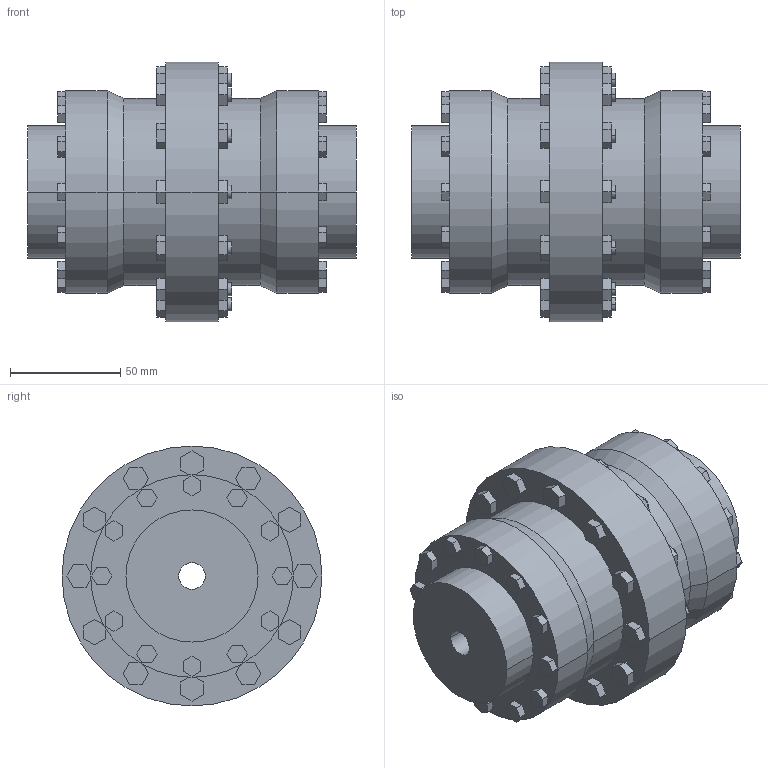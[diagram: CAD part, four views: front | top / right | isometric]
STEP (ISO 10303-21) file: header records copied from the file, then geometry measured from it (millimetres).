
FILE_DESCRIPTION((''),'2;1');
FILE_NAME('A19708400-0_ASM','2019-05-23T',('AB_Roschiwal'),('RENK AG'),'PRO/ENGINEER BY PARAMETRIC TECHNOLOGY CORPORATION, 2015440','PRO/ENGINEER BY PARAMETRIC TECHNOLOGY CORPORATION, 2015440','');
FILE_SCHEMA(('CONFIG_CONTROL_DESIGN'));
Length unit declared in the file: millimetre
Products named in the file (3): SBK38_GEHAEUSE; SBK38_NABE; A19708400-0_ASM
Assembly tree (3 placements, depth 2):
  A19708400-0_ASM
    SBK38_GEHAEUSE
    SBK38_NABE  x2
Bounding box: 149 x 118 x 118 mm (x, y, z)
Volume: 715179.7 mm3; surface area: 135254.2 mm2
Topology: 3 solids, 3 shells, 422 faces, 1036 edges, 688 vertices
Faces by surface type: plane 362, cylinder 56, cone 4
Entity records: 12052 total; most frequent: CARTESIAN_POINT 2100, ORIENTED_EDGE 2024, DIRECTION 1940, EDGE_CURVE 1012, VECTOR 916, LINE 916, VERTEX_POINT 672, AXIS2_PLACEMENT_3D 512
